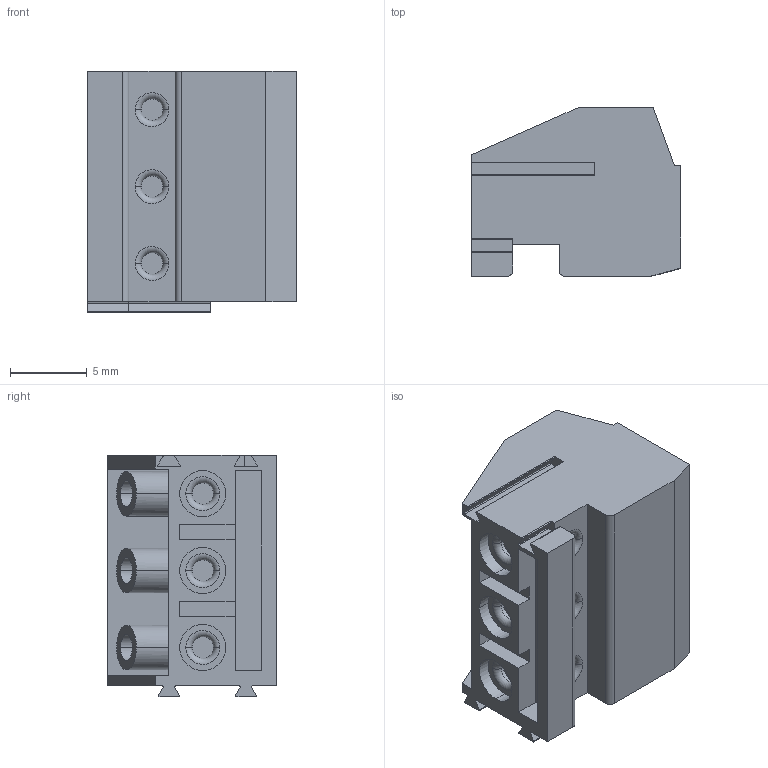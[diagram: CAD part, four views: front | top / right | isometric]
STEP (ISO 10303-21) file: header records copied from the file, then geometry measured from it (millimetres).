
FILE_DESCRIPTION((''),'2;1');
FILE_NAME('333','2019-04-18T',('zhenbing.lai'),(''),'CREO PARAMETRIC BY PTC INC, 2016260','CREO PARAMETRIC BY PTC INC, 2016260','');
FILE_SCHEMA(('CONFIG_CONTROL_DESIGN'));
Length unit declared in the file: millimetre
Products named in the file (1): 333
Bounding box: 13.6 x 11 x 15.7 mm (x, y, z)
Volume: 1514.9 mm3; surface area: 1596.6 mm2
Topology: 1 solids, 1 shells, 284 faces, 829 edges, 571 vertices
Faces by surface type: plane 149, cylinder 105, torus 24, cone 6
Entity records: 9997 total; most frequent: CARTESIAN_POINT 2195, ORIENTED_EDGE 1658, DIRECTION 1639, EDGE_CURVE 829, AXIS2_PLACEMENT_3D 605, VERTEX_POINT 571, VECTOR 429, LINE 429
